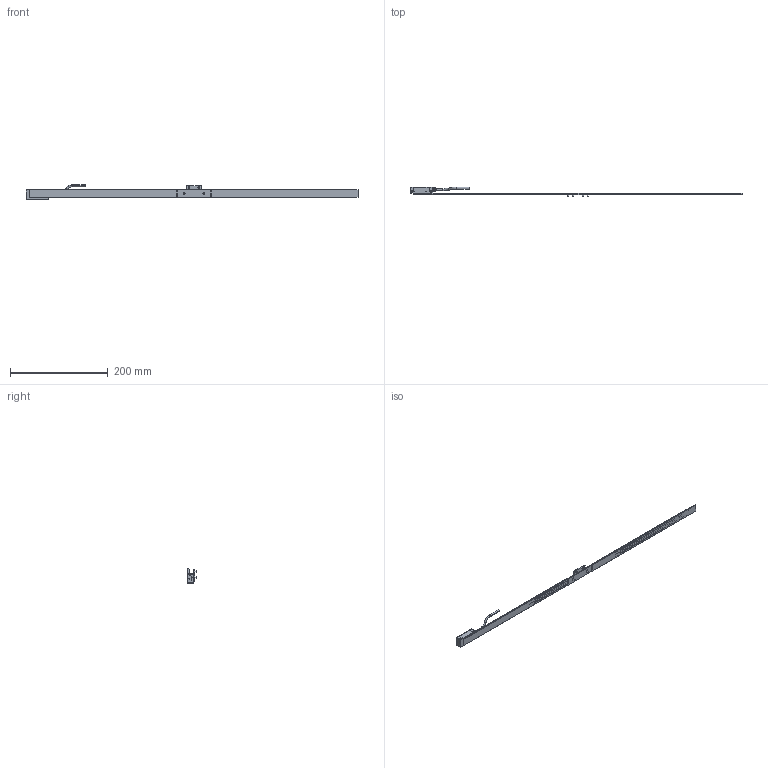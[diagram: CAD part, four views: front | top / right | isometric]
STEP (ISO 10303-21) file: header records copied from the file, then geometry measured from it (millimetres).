
FILE_DESCRIPTION(('Creo Elements/Direct Modeling STEP Export'),'2;1');
FILE_NAME('EXG_EXGA-640.stp','2017-01-13T12:31:14',(''),(''),'Creo Elements/Direct Modeling STEP processor for AP214 (Solid Model)','Creo Elements/Direct Modeling 18.1H 24-Oct-2015 (C) Parametric Technology GmbH','');
FILE_SCHEMA(('AUTOMOTIVE_DESIGN { 1 0 10303 214 1 1 1 1 }'));
Length unit declared in the file: millimetre
Products named in the file (4): CABEZA_REGLA_EXPOSED; Regla_64
Assembly tree (2 placements, depth 2):
  CABEZA_REGLA_EXPOSED
    CABEZA_REGLA_EXPOSED
  Regla_64
    Regla_64
Bounding box: 678 x 19.51 x 29.33 mm (x, y, z)
Volume: 34426.3 mm3; surface area: 47793.6 mm2
Topology: 2 solids, 4 shells, 508 faces, 1339 edges, 854 vertices
Faces by surface type: plane 255, cylinder 149, cone 88, torus 16
Entity records: 16964 total; most frequent: CARTESIAN_POINT 2901, ORIENTED_EDGE 2654, DIRECTION 2465, EDGE_CURVE 1327, VERTEX_POINT 854, AXIS2_PLACEMENT_3D 847, VECTOR 771, LINE 771
